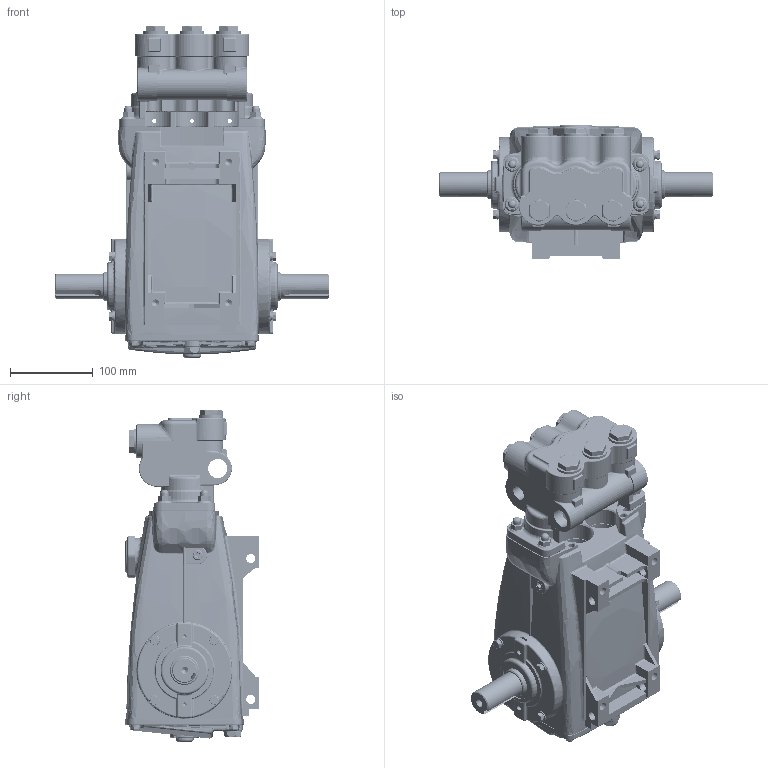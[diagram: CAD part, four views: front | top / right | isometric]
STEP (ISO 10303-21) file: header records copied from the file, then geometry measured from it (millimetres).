
FILE_DESCRIPTION (( 'STEP AP214' ), '1' );
FILE_NAME ('661.STEP', '2012-12-17T12:53:16', ( '' ), ( '' ), 'SwSTEP 2.0', 'SolidWorks 2012', '' );
FILE_SCHEMA (( 'AUTOMOTIVE_DESIGN' ));
Length unit declared in the file: millimetre
Products named in the file (1): 661
Bounding box: 330 x 162 x 400.3 mm (x, y, z)
Volume: 3760974.9 mm3; surface area: 766068.8 mm2
Topology: 1 solids, 31 shells, 4688 faces, 11992 edges, 7479 vertices
Faces by surface type: plane 1661, cylinder 1380, bspline 777, torus 573, cone 217, sphere 80
Entity records: 232080 total; most frequent: CARTESIAN_POINT 86256, ORIENTED_EDGE 23702, DIRECTION 20841, EDGE_CURVE 11851, AXIS2_PLACEMENT_3D 7817, VERTEX_POINT 7456, LINE 5207, VECTOR 5207
